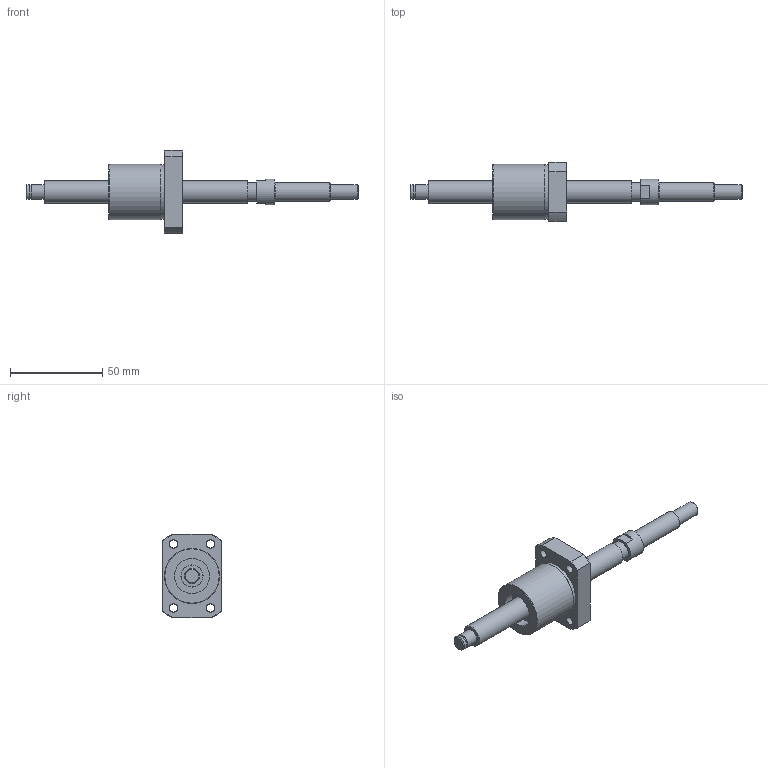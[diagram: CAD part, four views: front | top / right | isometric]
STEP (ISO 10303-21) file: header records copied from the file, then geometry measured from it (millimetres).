
FILE_DESCRIPTION(/* description */ ('STEP AP203'),/* implementation_level */ '2;1');
FILE_NAME(/* name */ 'BNK1205-2.5RRG0+180LC5Y(750)',/* time_stamp */ '2024-07-09T09:08:55+02:00',/* author */ ('License CC BY-ND 4.0'),/* organization */ ('CADENAS'),/* preprocessor_version */ 'ST-DEVELOPER v19.3',/* originating_system */ 'PARTsolutions',/* authorisation */ ' ');
FILE_SCHEMA (('CONFIG_CONTROL_DESIGN'));
Length unit declared in the file: millimetre
Products named in the file (3): BNK1205-2.5RRG0+180LC5Y(750); BNK 1205-2.5RRG0+180LC5Y Shaft; BNK 1205-2.5RRG0+180LC5YRR0 Nut
Assembly tree (2 placements, depth 2):
  BNK1205-2.5RRG0+180LC5Y(750)
    BNK 1205-2.5RRG0+180LC5Y Shaft
    BNK 1205-2.5RRG0+180LC5YRR0 Nut
Bounding box: 180 x 32 x 45 mm (x, y, z)
Volume: 45383.2 mm3; surface area: 16080.7 mm2
Topology: 2 solids, 2 shells, 76 faces, 159 edges, 102 vertices
Faces by surface type: plane 29, cylinder 29, cone 16, torus 2
Full cylindrical faces by diameter (mm): 3 x3, 4.5 x4, 4.917 x1, 7.6 x1, 8 x7, 10 x2, 12 x2, 14 x1, 19 x2, 29.4 x1, 30 x1
Entity records: 1976 total; most frequent: CARTESIAN_POINT 386, DIRECTION 332, ORIENTED_EDGE 236, AXIS2_PLACEMENT_3D 154, FACE_BOUND 141, EDGE_LOOP 140, EDGE_CURVE 118, VERTEX_POINT 99
